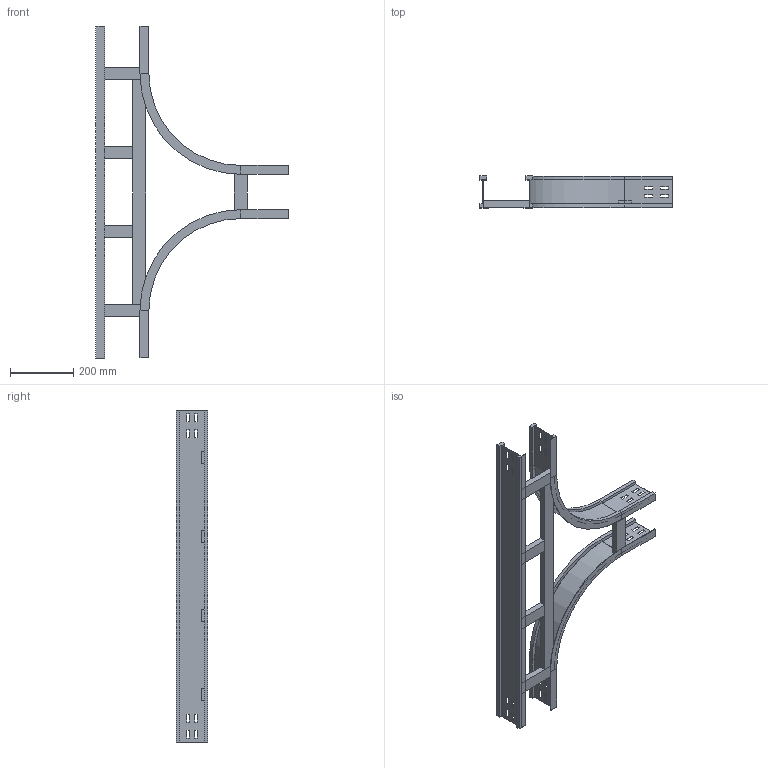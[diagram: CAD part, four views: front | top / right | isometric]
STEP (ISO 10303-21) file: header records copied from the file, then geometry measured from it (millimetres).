
FILE_DESCRIPTION (( 'STEP AP214' ), '1' );
FILE_NAME ('15S3D150.step', '2025-02-21T16:12:14', ( '' ), ( '' ), 'SwSTEP 2.0', 'SolidWorks 2023', '' );
FILE_SCHEMA (( 'AUTOMOTIVE_DESIGN' ));
Length unit declared in the file: millimetre
Products named in the file (6): TRAVERSINO_INTERMEDIO_R300+150; TRAVERSINO_150; LONGH.RETT_H100_R300+150; TRAVERSINO_LONG._R300+150; 15S3D150; LONGH.INTERNO 90°_H100_R300
Assembly tree (9 placements, depth 2):
  15S3D150
    LONGH.INTERNO 90°_H100_R300  x2
    LONGH.RETT_H100_R300+150
    TRAVERSINO_150  x3
    TRAVERSINO_LONG._R300+150
    TRAVERSINO_INTERMEDIO_R300+150  x2
Bounding box: 609 x 100 x 1050 mm (x, y, z)
Volume: 2472284.6 mm3; surface area: 940956.6 mm2
Topology: 9 solids, 9 shells, 222 faces, 564 edges, 360 vertices
Faces by surface type: plane 210, cylinder 12
Entity records: 4275 total; most frequent: CARTESIAN_POINT 718, ORIENTED_EDGE 696, DIRECTION 652, EDGE_CURVE 348, LINE 336, VECTOR 336, VERTEX_POINT 224, EDGE_LOOP 166
